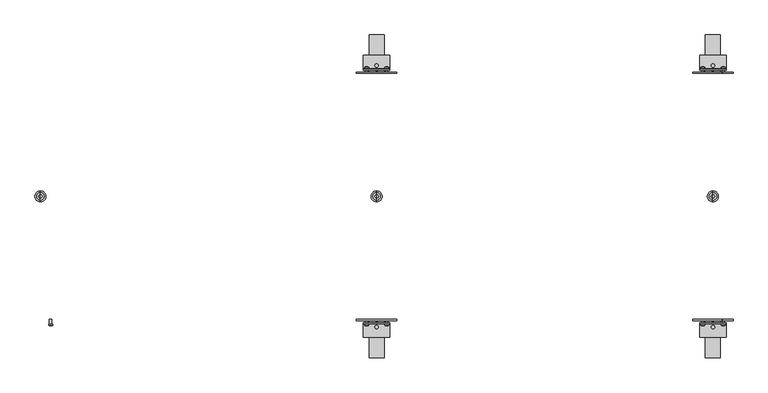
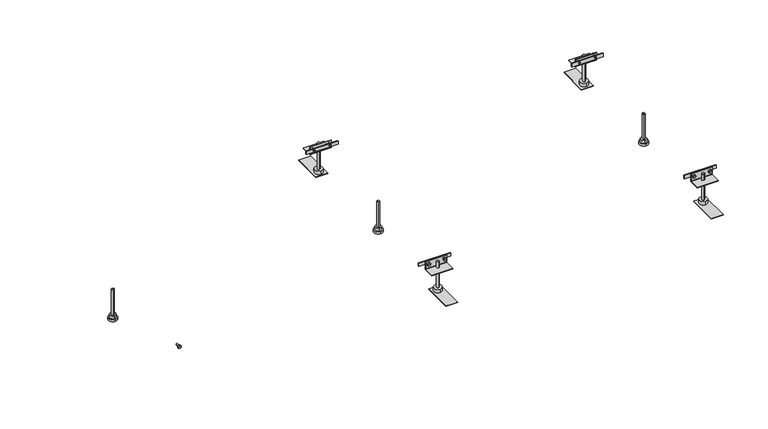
"""IFC4 building model written with IfcOpenShell, lengths in millimetres: proxy geometry."""

from ifc_helpers import new_model, si_unit, point, frame, frame_2d, origin, place, context, project, spatial, polyline, circle_curve, ellipse_curve, trimmed, segment, composite_curve, outline, extrude, source, transform, mapped, element, save
from ifc_brep_helpers import plane_surface, cylinder_surface, revolved_surface, advanced_brep


def electrical_fixtures_4a2096c9(model_context):
    return source(origin(), model_context, "Body", "SolidModel", [
        advanced_brep(
        [(1600.0, 13.0, -85.5), (1600.0, -13.0, -85.5), (1600.0, 0.0, -85.5), (1600.0, 13.0, -79.5), (1600.0, -13.0, -79.5), (1600.0, 9.0, -79.5), (1600.0, -9.0, -79.5), (1600.0, 9.0, -70.5), (1600.0, -9.0, -70.5), (1600.0, 3.954744, -70.5), (1600.0, -3.954744, -70.5), (1600.0, 3.954744, 9.5), (1600.0, -3.954744, 9.5), (1600.0, 0.0, 9.5)],
        [
            (0, 1, circle_curve(frame((1600.0, 0.0, -85.5), z_axis=(0.0, 0.0, -1.0), x_axis=(0.0, -1.0, 0.0)), 13.0)),
            (1, 2),
            (2, 0),
            (1, 0, circle_curve(frame((1600.0, 0.0, -85.5), z_axis=(0.0, 0.0, -1.0), x_axis=(0.0, -1.0, 0.0)), 13.0)),
            (3, 4, circle_curve(frame((1600.0, 0.0, -79.5), z_axis=(0.0, 0.0, -1.0), x_axis=(0.0, -1.0, 0.0)), 13.0)),
            (4, 1),
            (0, 3),
            (4, 3, circle_curve(frame((1600.0, 0.0, -79.5), z_axis=(0.0, 0.0, -1.0), x_axis=(0.0, -1.0, 0.0)), 13.0)),
            (5, 6, circle_curve(frame((1600.0, 0.0, -79.5), z_axis=(0.0, 0.0, -1.0), x_axis=(0.0, -1.0, 0.0)), 9.0)),
            (6, 4),
            (3, 5),
            (6, 5, circle_curve(frame((1600.0, 0.0, -79.5), z_axis=(0.0, 0.0, -1.0), x_axis=(0.0, -1.0, 0.0)), 9.0)),
            (7, 8, circle_curve(frame((1600.0, 0.0, -70.5), z_axis=(0.0, 0.0, -1.0), x_axis=(0.0, -1.0, 0.0)), 9.0)),
            (8, 6),
            (5, 7),
            (8, 7, circle_curve(frame((1600.0, 0.0, -70.5), z_axis=(0.0, 0.0, -1.0), x_axis=(0.0, -1.0, 0.0)), 9.0)),
            (9, 10, circle_curve(frame((1600.0, 0.0, -70.5), z_axis=(0.0, 0.0, -1.0), x_axis=(0.0, -1.0, 0.0)), 3.954744)),
            (10, 8),
            (7, 9),
            (10, 9, circle_curve(frame((1600.0, 0.0, -70.5), z_axis=(0.0, 0.0, -1.0), x_axis=(0.0, -1.0, 0.0)), 3.954744)),
            (11, 12, circle_curve(frame((1600.0, 0.0, 9.5), z_axis=(0.0, 0.0, -1.0), x_axis=(0.0, -1.0, 0.0)), 3.954744)),
            (12, 10),
            (9, 11),
            (12, 11, circle_curve(frame((1600.0, 0.0, 9.5), z_axis=(0.0, 0.0, -1.0), x_axis=(0.0, -1.0, 0.0)), 3.954744)),
            (13, 12),
            (11, 13),
        ],
        [
            plane_surface(frame((1600.0, 0.0, -85.5), z_axis=(0.0, 0.0, -1.0), x_axis=(0.0, -1.0, 0.0))),
            cylinder_surface(frame((1600.0, 0.0, 7.0), z_axis=(0.0, 0.0, 1.0), x_axis=(0.0, -1.0, 0.0)), 13.0),
            plane_surface(frame((1600.0, 0.0, -79.5), z_axis=(0.0, 0.0, 1.0), x_axis=(0.0, -1.0, 0.0))),
            cylinder_surface(frame((1600.0, 0.0, 7.0), z_axis=(0.0, 0.0, 1.0), x_axis=(0.0, -1.0, 0.0)), 9.0),
            plane_surface(frame((1600.0, 0.0, -70.5), z_axis=(0.0, 0.0, 1.0), x_axis=(0.0, -1.0, 0.0))),
            cylinder_surface(frame((1600.0, 0.0, 7.0), z_axis=(0.0, 0.0, 1.0), x_axis=(0.0, -1.0, 0.0)), 3.954744),
            plane_surface(frame((1600.0, 0.0, 9.5), z_axis=(0.0, 0.0, 1.0), x_axis=(0.0, -1.0, 0.0))),
        ],
        [
            (0, [[1, 2, 3]]),
            (0, [[4, -3, -2]]),
            (1, [[5, 6, -1, 7]]),
            (1, [[8, -7, -4, -6]]),
            (2, [[9, 10, -5, 11]]),
            (2, [[12, -11, -8, -10]]),
            (3, [[13, 14, -9, 15]]),
            (3, [[16, -15, -12, -14]]),
            (4, [[17, 18, -13, 19]]),
            (4, [[20, -19, -16, -18]]),
            (5, [[21, 22, -17, 23]]),
            (5, [[24, -23, -20, -22]]),
            (6, [[25, -21, 26]]),
            (6, [[-26, -24, -25]]),
        ],
    ),
        advanced_brep(
        [(1629.0575247, -306.6418922, 2.5), (1619.4769168, -306.6418922, 2.5), (1619.4769168, -304.7, 2.5), (1629.0575247, -304.7, 2.5), (1621.7042517, -304.7, 2.5), (1626.8301898, -304.7, 2.5), (1621.7042517, -292.7, 2.5), (1626.8301898, -292.7, 2.5), (1624.2672208, -292.7, 2.5), (1624.2672208, -308.3479209, 2.5)],
        [
            (0, 1, circle_curve(frame((1624.2672208, -306.6418922, 2.5), z_axis=(0.0, 1.0, 0.0), x_axis=(-1.0, 0.0, 0.0)), 4.790304)),
            (1, 2),
            (2, 3, circle_curve(frame((1624.2672208, -304.7, 2.5), z_axis=(0.0, -1.0, 0.0), x_axis=(-1.0, 0.0, 0.0)), 4.790304)),
            (3, 0),
            (1, 0, circle_curve(frame((1624.2672208, -306.6418922, 2.5), z_axis=(0.0, 1.0, 0.0), x_axis=(-1.0, 0.0, 0.0)), 4.790304)),
            (3, 2, circle_curve(frame((1624.2672208, -304.7, 2.5), z_axis=(0.0, -1.0, 0.0), x_axis=(-1.0, 0.0, 0.0)), 4.790304)),
            (2, 4),
            (4, 5, circle_curve(frame((1624.2672208, -304.7, 2.5), z_axis=(0.0, -1.0, 0.0), x_axis=(-1.0, 0.0, 0.0)), 2.562969)),
            (5, 3),
            (5, 4, circle_curve(frame((1624.2672208, -304.7, 2.5), z_axis=(0.0, -1.0, 0.0), x_axis=(-1.0, 0.0, 0.0)), 2.562969)),
            (4, 6),
            (6, 7, circle_curve(frame((1624.2672208, -292.7, 2.5), z_axis=(0.0, -1.0, 0.0), x_axis=(-1.0, 0.0, 0.0)), 2.562969)),
            (7, 5),
            (7, 6, circle_curve(frame((1624.2672208, -292.7, 2.5), z_axis=(0.0, -1.0, 0.0), x_axis=(-1.0, 0.0, 0.0)), 2.562969)),
            (6, 8),
            (8, 7),
            (9, 1, circle_curve(frame((1624.2353142, -300.8592246, 2.5), z_axis=(0.0, 0.0, -1.0), x_axis=(-1.0, 0.0, 0.0)), 7.4887643)),
            (0, 9, circle_curve(frame((1624.2991274, -300.8592246, 2.5), z_axis=(0.0, 0.0, -1.0), x_axis=(1.0, 0.0, 0.0)), 7.4887643)),
        ],
        [
            cylinder_surface(frame((1624.2672208, -304.2950786, 2.5), z_axis=(0.0, -1.0, 0.0), x_axis=(-1.0, 0.0, 0.0)), 4.790304),
            plane_surface(frame((1624.2672208, -304.7, 2.5), z_axis=(0.0, 1.0, 0.0), x_axis=(-1.0, 0.0, 0.0))),
            cylinder_surface(frame((1624.2672208, -304.2950786, 2.5), z_axis=(0.0, -1.0, 0.0), x_axis=(-1.0, 0.0, 0.0)), 2.562969),
            plane_surface(frame((1624.2672208, -292.7, 2.5), z_axis=(0.0, 1.0, 0.0), x_axis=(-1.0, 0.0, 0.0))),
            revolved_surface(trimmed(ellipse_curve(frame((1624.2353142, -300.8592246, 2.5), z_axis=(0.0, 0.0, 1.0), x_axis=(-1.0, 0.0, 0.0)), 7.4887643, 7.4887643), [point((1619.4769168, -306.6418922, 2.5))], [point((1624.2672208, -308.3479209, 2.5))], True, "CARTESIAN"), (1624.2672208, -304.2950786, 2.5), (0.0, -1.0, 0.0)),
        ],
        [
            (0, [[1, 2, 3, 4]]),
            (0, [[5, -4, 6, -2]]),
            (1, [[-3, 7, 8, 9]]),
            (1, [[-6, -9, 10, -7]]),
            (2, [[-8, 11, 12, 13]]),
            (2, [[-10, -13, 14, -11]]),
            (3, [[-12, 15, 16]]),
            (3, [[-14, -16, -15]]),
            (4, [[17, -1, 18]]),
            (4, [[-18, -5, -17]]),
        ],
    ),
        advanced_brep(
        [(1580.790304, -306.6418922, 2.5), (1571.209696, -306.6418922, 2.5), (1571.209696, -304.7, 2.5), (1580.790304, -304.7, 2.5), (1573.437031, -304.7, 2.5), (1578.562969, -304.7, 2.5), (1573.437031, -292.7, 2.5), (1578.562969, -292.7, 2.5), (1576.0, -292.7, 2.5), (1576.0, -308.3479209, 2.5)],
        [
            (0, 1, circle_curve(frame((1576.0, -306.6418922, 2.5), z_axis=(0.0, 1.0, 0.0), x_axis=(-1.0, 0.0, 0.0)), 4.790304)),
            (1, 2),
            (2, 3, circle_curve(frame((1576.0, -304.7, 2.5), z_axis=(0.0, -1.0, 0.0), x_axis=(-1.0, 0.0, 0.0)), 4.790304)),
            (3, 0),
            (1, 0, circle_curve(frame((1576.0, -306.6418922, 2.5), z_axis=(0.0, 1.0, 0.0), x_axis=(-1.0, 0.0, 0.0)), 4.790304)),
            (3, 2, circle_curve(frame((1576.0, -304.7, 2.5), z_axis=(0.0, -1.0, 0.0), x_axis=(-1.0, 0.0, 0.0)), 4.790304)),
            (2, 4),
            (4, 5, circle_curve(frame((1576.0, -304.7, 2.5), z_axis=(0.0, -1.0, 0.0), x_axis=(-1.0, 0.0, 0.0)), 2.562969)),
            (5, 3),
            (5, 4, circle_curve(frame((1576.0, -304.7, 2.5), z_axis=(0.0, -1.0, 0.0), x_axis=(-1.0, 0.0, 0.0)), 2.562969)),
            (4, 6),
            (6, 7, circle_curve(frame((1576.0, -292.7, 2.5), z_axis=(0.0, -1.0, 0.0), x_axis=(-1.0, 0.0, 0.0)), 2.562969)),
            (7, 5),
            (7, 6, circle_curve(frame((1576.0, -292.7, 2.5), z_axis=(0.0, -1.0, 0.0), x_axis=(-1.0, 0.0, 0.0)), 2.562969)),
            (6, 8),
            (8, 7),
            (9, 1, circle_curve(frame((1575.9680934, -300.8592246, 2.5), z_axis=(0.0, 0.0, -1.0), x_axis=(-1.0, 0.0, 0.0)), 7.4887643)),
            (0, 9, circle_curve(frame((1576.0319066, -300.8592246, 2.5), z_axis=(0.0, 0.0, -1.0), x_axis=(1.0, 0.0, 0.0)), 7.4887643)),
        ],
        [
            cylinder_surface(frame((1576.0, -304.2950786, 2.5), z_axis=(0.0, -1.0, 0.0), x_axis=(-1.0, 0.0, 0.0)), 4.790304),
            plane_surface(frame((1576.0, -304.7, 2.5), z_axis=(0.0, 1.0, 0.0), x_axis=(-1.0, 0.0, 0.0))),
            cylinder_surface(frame((1576.0, -304.2950786, 2.5), z_axis=(0.0, -1.0, 0.0), x_axis=(-1.0, 0.0, 0.0)), 2.562969),
            plane_surface(frame((1576.0, -292.7, 2.5), z_axis=(0.0, 1.0, 0.0), x_axis=(-1.0, 0.0, 0.0))),
            revolved_surface(trimmed(ellipse_curve(frame((1575.9680934, -300.8592246, 2.5), z_axis=(0.0, 0.0, 1.0), x_axis=(-1.0, 0.0, 0.0)), 7.4887643, 7.4887643), [point((1571.209696, -306.6418922, 2.5))], [point((1576.0, -308.3479209, 2.5))], True, "CARTESIAN"), (1576.0, -304.2950786, 2.5), (0.0, -1.0, 0.0)),
        ],
        [
            (0, [[1, 2, 3, 4]]),
            (0, [[5, -4, 6, -2]]),
            (1, [[-3, 7, 8, 9]]),
            (1, [[-6, -9, 10, -7]]),
            (2, [[-8, 11, 12, 13]]),
            (2, [[-10, -13, 14, -11]]),
            (3, [[-12, 15, 16]]),
            (3, [[-14, -16, -15]]),
            (4, [[17, -1, 18]]),
            (4, [[-18, -5, -17]]),
        ],
    ),
        advanced_brep(
        [(1629.0575247, 304.7, 2.5), (1619.4769168, 304.7, 2.5), (1619.4769168, 306.6418922, 2.5), (1629.0575247, 306.6418922, 2.5), (1626.8301898, 304.7, 2.5), (1621.7042517, 304.7, 2.5), (1626.8301898, 292.7, 2.5), (1621.7042517, 292.7, 2.5), (1624.2672208, 292.7, 2.5), (1624.2672208, 308.3479209, 2.5)],
        [
            (0, 1, circle_curve(frame((1624.2672208, 304.7, 2.5), z_axis=(0.0, 1.0, 0.0), x_axis=(-1.0, 0.0, 0.0)), 4.790304)),
            (1, 2),
            (2, 3, circle_curve(frame((1624.2672208, 306.6418922, 2.5), z_axis=(0.0, -1.0, 0.0), x_axis=(-1.0, 0.0, 0.0)), 4.790304)),
            (3, 0),
            (1, 0, circle_curve(frame((1624.2672208, 304.7, 2.5), z_axis=(0.0, 1.0, 0.0), x_axis=(-1.0, 0.0, 0.0)), 4.790304)),
            (3, 2, circle_curve(frame((1624.2672208, 306.6418922, 2.5), z_axis=(0.0, -1.0, 0.0), x_axis=(-1.0, 0.0, 0.0)), 4.790304)),
            (4, 5, circle_curve(frame((1624.2672208, 304.7, 2.5), z_axis=(0.0, 1.0, 0.0), x_axis=(-1.0, 0.0, 0.0)), 2.562969)),
            (5, 1),
            (0, 4),
            (5, 4, circle_curve(frame((1624.2672208, 304.7, 2.5), z_axis=(0.0, 1.0, 0.0), x_axis=(-1.0, 0.0, 0.0)), 2.562969)),
            (6, 7, circle_curve(frame((1624.2672208, 292.7, 2.5), z_axis=(0.0, 1.0, 0.0), x_axis=(-1.0, 0.0, 0.0)), 2.562969)),
            (7, 5),
            (4, 6),
            (7, 6, circle_curve(frame((1624.2672208, 292.7, 2.5), z_axis=(0.0, 1.0, 0.0), x_axis=(-1.0, 0.0, 0.0)), 2.562969)),
            (8, 7),
            (6, 8),
            (2, 9, circle_curve(frame((1624.2353142, 300.8592246, 2.5), z_axis=(0.0, 0.0, -1.0), x_axis=(-1.0, 0.0, 0.0)), 7.4887643)),
            (9, 3, circle_curve(frame((1624.2991274, 300.8592246, 2.5), z_axis=(0.0, 0.0, -1.0), x_axis=(1.0, 0.0, 0.0)), 7.4887643)),
        ],
        [
            cylinder_surface(frame((1624.2672208, 304.2950786, 2.5), z_axis=(0.0, -1.0, 0.0), x_axis=(-1.0, 0.0, 0.0)), 4.790304),
            plane_surface(frame((1624.2672208, 304.7, 2.5), z_axis=(0.0, -1.0, 0.0), x_axis=(-1.0, 0.0, 0.0))),
            cylinder_surface(frame((1624.2672208, 304.2950786, 2.5), z_axis=(0.0, -1.0, 0.0), x_axis=(-1.0, 0.0, 0.0)), 2.562969),
            plane_surface(frame((1624.2672208, 292.7, 2.5), z_axis=(0.0, -1.0, 0.0), x_axis=(-1.0, 0.0, 0.0))),
            revolved_surface(trimmed(ellipse_curve(frame((1624.2353142, 300.8592246, 2.5), z_axis=(0.0, 0.0, 1.0), x_axis=(-1.0, 0.0, 0.0)), 7.4887643, 7.4887643), [point((1624.2672208, 308.3479209, 2.5))], [point((1619.4769168, 306.6418922, 2.5))], True, "CARTESIAN"), (1624.2672208, 304.2950786, 2.5), (0.0, -1.0, 0.0)),
        ],
        [
            (0, [[1, 2, 3, 4]]),
            (0, [[5, -4, 6, -2]]),
            (1, [[7, 8, -1, 9]]),
            (1, [[10, -9, -5, -8]]),
            (2, [[11, 12, -7, 13]]),
            (2, [[14, -13, -10, -12]]),
            (3, [[15, -11, 16]]),
            (3, [[-16, -14, -15]]),
            (4, [[-3, 17, 18]]),
            (4, [[-6, -18, -17]]),
        ],
    ),
        advanced_brep(
        [(1580.790304, 304.7, 2.5), (1571.209696, 304.7, 2.5), (1571.209696, 306.6418922, 2.5), (1580.790304, 306.6418922, 2.5), (1578.562969, 304.7, 2.5), (1573.437031, 304.7, 2.5), (1578.562969, 292.7, 2.5), (1573.437031, 292.7, 2.5), (1576.0, 292.7, 2.5), (1576.0, 308.3479209, 2.5)],
        [
            (0, 1, circle_curve(frame((1576.0, 304.7, 2.5), z_axis=(0.0, 1.0, 0.0), x_axis=(-1.0, 0.0, 0.0)), 4.790304)),
            (1, 2),
            (2, 3, circle_curve(frame((1576.0, 306.6418922, 2.5), z_axis=(0.0, -1.0, 0.0), x_axis=(-1.0, 0.0, 0.0)), 4.790304)),
            (3, 0),
            (1, 0, circle_curve(frame((1576.0, 304.7, 2.5), z_axis=(0.0, 1.0, 0.0), x_axis=(-1.0, 0.0, 0.0)), 4.790304)),
            (3, 2, circle_curve(frame((1576.0, 306.6418922, 2.5), z_axis=(0.0, -1.0, 0.0), x_axis=(-1.0, 0.0, 0.0)), 4.790304)),
            (4, 5, circle_curve(frame((1576.0, 304.7, 2.5), z_axis=(0.0, 1.0, 0.0), x_axis=(-1.0, 0.0, 0.0)), 2.562969)),
            (5, 1),
            (0, 4),
            (5, 4, circle_curve(frame((1576.0, 304.7, 2.5), z_axis=(0.0, 1.0, 0.0), x_axis=(-1.0, 0.0, 0.0)), 2.562969)),
            (6, 7, circle_curve(frame((1576.0, 292.7, 2.5), z_axis=(0.0, 1.0, 0.0), x_axis=(-1.0, 0.0, 0.0)), 2.562969)),
            (7, 5),
            (4, 6),
            (7, 6, circle_curve(frame((1576.0, 292.7, 2.5), z_axis=(0.0, 1.0, 0.0), x_axis=(-1.0, 0.0, 0.0)), 2.562969)),
            (8, 7),
            (6, 8),
            (2, 9, circle_curve(frame((1575.9680934, 300.8592246, 2.5), z_axis=(0.0, 0.0, -1.0), x_axis=(-1.0, 0.0, 0.0)), 7.4887643)),
            (9, 3, circle_curve(frame((1576.0319066, 300.8592246, 2.5), z_axis=(0.0, 0.0, -1.0), x_axis=(1.0, 0.0, 0.0)), 7.4887643)),
        ],
        [
            cylinder_surface(frame((1576.0, 304.2950786, 2.5), z_axis=(0.0, -1.0, 0.0), x_axis=(-1.0, 0.0, 0.0)), 4.790304),
            plane_surface(frame((1576.0, 304.7, 2.5), z_axis=(0.0, -1.0, 0.0), x_axis=(-1.0, 0.0, 0.0))),
            cylinder_surface(frame((1576.0, 304.2950786, 2.5), z_axis=(0.0, -1.0, 0.0), x_axis=(-1.0, 0.0, 0.0)), 2.562969),
            plane_surface(frame((1576.0, 292.7, 2.5), z_axis=(0.0, -1.0, 0.0), x_axis=(-1.0, 0.0, 0.0))),
            revolved_surface(trimmed(ellipse_curve(frame((1575.9680934, 300.8592246, 2.5), z_axis=(0.0, 0.0, 1.0), x_axis=(-1.0, 0.0, 0.0)), 7.4887643, 7.4887643), [point((1576.0, 308.3479209, 2.5))], [point((1571.209696, 306.6418922, 2.5))], True, "CARTESIAN"), (1576.0, 304.2950786, 2.5), (0.0, -1.0, 0.0)),
        ],
        [
            (0, [[1, 2, 3, 4]]),
            (0, [[5, -4, 6, -2]]),
            (1, [[7, 8, -1, 9]]),
            (1, [[10, -9, -5, -8]]),
            (2, [[11, 12, -7, 13]]),
            (2, [[14, -13, -10, -12]]),
            (3, [[15, -11, 16]]),
            (3, [[-16, -14, -15]]),
            (4, [[-3, 17, 18]]),
            (4, [[-6, -18, -17]]),
        ],
    ),
        extrude(outline(polyline([(1552.0, 292.7), (1552.0, 295.7), (1648.0, 295.7), (1648.0, 292.7), (1552.0, 292.7)])), frame((0.0, 0.0, -2.5), z_axis=(0.0, 0.0, 1.0), x_axis=(1.0, 0.0, 0.0)), (0.0, 0.0, 1.0), 10.0),
        extrude(outline(polyline([(1552.0, -295.7), (1552.0, -292.7), (1648.0, -292.7), (1648.0, -295.7), (1552.0, -295.7)])), frame((0.0, 0.0, -2.5), z_axis=(0.0, 0.0, 1.0), x_axis=(1.0, 0.0, 0.0)), (0.0, 0.0, 1.0), 10.0),
        extrude(outline(composite_curve([segment(polyline([(300.6, 10.9), (302.6, 10.9), (302.6, -11.1088822)]), True, "CONTINUOUS"), segment(trimmed(circle_curve(frame_2d((303.5911178, -11.1088822)), 0.9911178), [point((302.6, -11.1088822))], [point((303.5911178, -12.1))], True, "CARTESIAN"), True, "CONTINUOUS"), segment(polyline([(303.5911178, -12.1), (335.6, -12.1), (335.6, -14.1), (303.6002521, -14.1)]), True, "CONTINUOUS"), segment(trimmed(circle_curve(frame_2d((303.6002521, -11.0997479)), 3.0002521), [point((303.6002521, -14.1))], [point((300.6, -11.0997479))], False, "CARTESIAN"), True, "CONTINUOUS"), segment(polyline([(300.6, -11.0997479), (300.6, 10.9)]), True, "CONTINUOUS")], self_intersect=False)), frame((1568.3, 0.0, 0.0), z_axis=(1.0, 0.0, 0.0), x_axis=(0.0, 1.0, 0.0)), (0.0, 0.0, 1.0), 63.4),
        extrude(outline(composite_curve([segment(polyline([(-300.6, 10.9), (-300.6, -11.0997479)]), True, "CONTINUOUS"), segment(trimmed(circle_curve(frame_2d((-303.6002521, -11.0997479)), 3.0002521), [point((-300.6, -11.0997479))], [point((-303.6002521, -14.1))], False, "CARTESIAN"), True, "CONTINUOUS"), segment(polyline([(-303.6002521, -14.1), (-335.6, -14.1), (-335.6, -12.1), (-303.5911178, -12.1)]), True, "CONTINUOUS"), segment(trimmed(circle_curve(frame_2d((-303.5911178, -11.1088822)), 0.9911178), [point((-303.5911178, -12.1))], [point((-302.6, -11.1088822))], True, "CARTESIAN"), True, "CONTINUOUS"), segment(polyline([(-302.6, -11.1088822), (-302.6, 10.9), (-300.6, 10.9)]), True, "CONTINUOUS")], self_intersect=False)), frame((1568.3, 0.0, 0.0), z_axis=(1.0, 0.0, 0.0), x_axis=(0.0, 1.0, 0.0)), (0.0, 0.0, 1.0), 63.4),
        extrude(outline(composite_curve([segment(trimmed(circle_curve(frame_2d((1600.0, 311.1712378)), 3.9923162), [point((1600.0, 315.163554))], [point((1600.0, 307.1789216))], False, "CARTESIAN"), True, "CONTINUOUS"), segment(trimmed(circle_curve(frame_2d((1600.0, 311.1712378)), 3.9923162), [point((1600.0, 307.1789216))], [point((1600.0, 315.163554))], False, "CARTESIAN"), True, "CONTINUOUS")], self_intersect=False)), frame((0.0, 0.0, -74.8), z_axis=(0.0, 0.0, 1.0), x_axis=(1.0, 0.0, 0.0)), (0.0, 0.0, 1.0), 81.8),
        extrude(outline(composite_curve([segment(trimmed(circle_curve(frame_2d((1600.0, -311.0787011)), 3.991847), [point((1600.0, -307.0868541))], [point((1600.0, -315.0705482))], False, "CARTESIAN"), True, "CONTINUOUS"), segment(trimmed(circle_curve(frame_2d((1600.0, -311.0787011)), 3.991847), [point((1600.0, -315.0705482))], [point((1600.0, -307.0868541))], False, "CARTESIAN"), True, "CONTINUOUS")], self_intersect=False)), frame((0.0, 0.0, -74.8), z_axis=(0.0, 0.0, 1.0), x_axis=(1.0, 0.0, 0.0)), (0.0, 0.0, 1.0), 81.8),
        extrude(outline(composite_curve([segment(trimmed(circle_curve(frame_2d((1600.0, 311.1652527)), 12.0), [point((1600.0, 323.1652527))], [point((1600.0, 299.1652527))], False, "CARTESIAN"), True, "CONTINUOUS"), segment(trimmed(circle_curve(frame_2d((1600.0, 311.1652527)), 12.0), [point((1600.0, 299.1652527))], [point((1600.0, 323.1652527))], False, "CARTESIAN"), True, "CONTINUOUS")], self_intersect=False)), frame((0.0, 0.0, -85.5), z_axis=(0.0, 0.0, 1.0), x_axis=(1.0, 0.0, 0.0)), (0.0, 0.0, 1.0), 10.7),
        extrude(outline(composite_curve([segment(trimmed(circle_curve(frame_2d((1600.0, -311.112037)), 12.0), [point((1600.0, -299.112037))], [point((1600.0, -323.112037))], False, "CARTESIAN"), True, "CONTINUOUS"), segment(trimmed(circle_curve(frame_2d((1600.0, -311.112037)), 12.0), [point((1600.0, -323.112037))], [point((1600.0, -299.112037))], False, "CARTESIAN"), True, "CONTINUOUS")], self_intersect=False)), frame((0.0, 0.0, -85.5), z_axis=(0.0, 0.0, 1.0), x_axis=(1.0, 0.0, 0.0)), (0.0, 0.0, 1.0), 10.7),
        extrude(outline(polyline([(1618.0, 294.1), (1582.0, 294.1), (1582.0, 384.1), (1618.0, 384.1), (1618.0, 294.1)])), frame((0.0, 0.0, -87.0), z_axis=(0.0, 0.0, 1.0), x_axis=(1.0, 0.0, 0.0)), (0.0, 0.0, 1.0), 1.5),
        extrude(outline(polyline([(1618.0, -384.1), (1582.0, -384.1), (1582.0, -294.1), (1618.0, -294.1), (1618.0, -384.1)])), frame((0.0, 0.0, -87.0), z_axis=(0.0, 0.0, 1.0), x_axis=(1.0, 0.0, 0.0)), (0.0, 0.0, 1.0), 1.5),
        advanced_brep(
        [(800.0, 13.0, -85.5), (800.0, -13.0, -85.5), (800.0, 0.0, -85.5), (800.0, 13.0, -79.5), (800.0, -13.0, -79.5), (800.0, 9.0, -79.5), (800.0, -9.0, -79.5), (800.0, 9.0, -70.5), (800.0, -9.0, -70.5), (800.0, 3.954744, -70.5), (800.0, -3.954744, -70.5), (800.0, 3.954744, 9.5), (800.0, -3.954744, 9.5), (800.0, 0.0, 9.5)],
        [
            (0, 1, circle_curve(frame((800.0, 0.0, -85.5), z_axis=(0.0, 0.0, -1.0), x_axis=(0.0, -1.0, 0.0)), 13.0)),
            (1, 2),
            (2, 0),
            (1, 0, circle_curve(frame((800.0, 0.0, -85.5), z_axis=(0.0, 0.0, -1.0), x_axis=(0.0, -1.0, 0.0)), 13.0)),
            (3, 4, circle_curve(frame((800.0, 0.0, -79.5), z_axis=(0.0, 0.0, -1.0), x_axis=(0.0, -1.0, 0.0)), 13.0)),
            (4, 1),
            (0, 3),
            (4, 3, circle_curve(frame((800.0, 0.0, -79.5), z_axis=(0.0, 0.0, -1.0), x_axis=(0.0, -1.0, 0.0)), 13.0)),
            (5, 6, circle_curve(frame((800.0, 0.0, -79.5), z_axis=(0.0, 0.0, -1.0), x_axis=(0.0, -1.0, 0.0)), 9.0)),
            (6, 4),
            (3, 5),
            (6, 5, circle_curve(frame((800.0, 0.0, -79.5), z_axis=(0.0, 0.0, -1.0), x_axis=(0.0, -1.0, 0.0)), 9.0)),
            (7, 8, circle_curve(frame((800.0, 0.0, -70.5), z_axis=(0.0, 0.0, -1.0), x_axis=(0.0, -1.0, 0.0)), 9.0)),
            (8, 6),
            (5, 7),
            (8, 7, circle_curve(frame((800.0, 0.0, -70.5), z_axis=(0.0, 0.0, -1.0), x_axis=(0.0, -1.0, 0.0)), 9.0)),
            (9, 10, circle_curve(frame((800.0, 0.0, -70.5), z_axis=(0.0, 0.0, -1.0), x_axis=(0.0, -1.0, 0.0)), 3.954744)),
            (10, 8),
            (7, 9),
            (10, 9, circle_curve(frame((800.0, 0.0, -70.5), z_axis=(0.0, 0.0, -1.0), x_axis=(0.0, -1.0, 0.0)), 3.954744)),
            (11, 12, circle_curve(frame((800.0, 0.0, 9.5), z_axis=(0.0, 0.0, -1.0), x_axis=(0.0, -1.0, 0.0)), 3.954744)),
            (12, 10),
            (9, 11),
            (12, 11, circle_curve(frame((800.0, 0.0, 9.5), z_axis=(0.0, 0.0, -1.0), x_axis=(0.0, -1.0, 0.0)), 3.954744)),
            (13, 12),
            (11, 13),
        ],
        [
            plane_surface(frame((800.0, 0.0, -85.5), z_axis=(0.0, 0.0, -1.0), x_axis=(0.0, -1.0, 0.0))),
            cylinder_surface(frame((800.0, 0.0, 7.0), z_axis=(0.0, 0.0, 1.0), x_axis=(0.0, -1.0, 0.0)), 13.0),
            plane_surface(frame((800.0, 0.0, -79.5), z_axis=(0.0, 0.0, 1.0), x_axis=(0.0, -1.0, 0.0))),
            cylinder_surface(frame((800.0, 0.0, 7.0), z_axis=(0.0, 0.0, 1.0), x_axis=(0.0, -1.0, 0.0)), 9.0),
            plane_surface(frame((800.0, 0.0, -70.5), z_axis=(0.0, 0.0, 1.0), x_axis=(0.0, -1.0, 0.0))),
            cylinder_surface(frame((800.0, 0.0, 7.0), z_axis=(0.0, 0.0, 1.0), x_axis=(0.0, -1.0, 0.0)), 3.954744),
            plane_surface(frame((800.0, 0.0, 9.5), z_axis=(0.0, 0.0, 1.0), x_axis=(0.0, -1.0, 0.0))),
        ],
        [
            (0, [[1, 2, 3]]),
            (0, [[4, -3, -2]]),
            (1, [[5, 6, -1, 7]]),
            (1, [[8, -7, -4, -6]]),
            (2, [[9, 10, -5, 11]]),
            (2, [[12, -11, -8, -10]]),
            (3, [[13, 14, -9, 15]]),
            (3, [[16, -15, -12, -14]]),
            (4, [[17, 18, -13, 19]]),
            (4, [[20, -19, -16, -18]]),
            (5, [[21, 22, -17, 23]]),
            (5, [[24, -23, -20, -22]]),
            (6, [[25, -21, 26]]),
            (6, [[-26, -24, -25]]),
        ],
    ),
        advanced_brep(
        [(829.0575247, -306.6418922, 2.5), (819.4769168, -306.6418922, 2.5), (819.4769168, -304.7, 2.5), (829.0575247, -304.7, 2.5), (821.7042517, -304.7, 2.5), (826.8301898, -304.7, 2.5), (821.7042517, -292.7, 2.5), (826.8301898, -292.7, 2.5), (824.2672208, -292.7, 2.5), (824.2672208, -308.3479209, 2.5)],
        [
            (0, 1, circle_curve(frame((824.2672208, -306.6418922, 2.5), z_axis=(0.0, 1.0, 0.0), x_axis=(-1.0, 0.0, 0.0)), 4.790304)),
            (1, 2),
            (2, 3, circle_curve(frame((824.2672208, -304.7, 2.5), z_axis=(0.0, -1.0, 0.0), x_axis=(-1.0, 0.0, 0.0)), 4.790304)),
            (3, 0),
            (1, 0, circle_curve(frame((824.2672208, -306.6418922, 2.5), z_axis=(0.0, 1.0, 0.0), x_axis=(-1.0, 0.0, 0.0)), 4.790304)),
            (3, 2, circle_curve(frame((824.2672208, -304.7, 2.5), z_axis=(0.0, -1.0, 0.0), x_axis=(-1.0, 0.0, 0.0)), 4.790304)),
            (2, 4),
            (4, 5, circle_curve(frame((824.2672208, -304.7, 2.5), z_axis=(0.0, -1.0, 0.0), x_axis=(-1.0, 0.0, 0.0)), 2.562969)),
            (5, 3),
            (5, 4, circle_curve(frame((824.2672208, -304.7, 2.5), z_axis=(0.0, -1.0, 0.0), x_axis=(-1.0, 0.0, 0.0)), 2.562969)),
            (4, 6),
            (6, 7, circle_curve(frame((824.2672208, -292.7, 2.5), z_axis=(0.0, -1.0, 0.0), x_axis=(-1.0, 0.0, 0.0)), 2.562969)),
            (7, 5),
            (7, 6, circle_curve(frame((824.2672208, -292.7, 2.5), z_axis=(0.0, -1.0, 0.0), x_axis=(-1.0, 0.0, 0.0)), 2.562969)),
            (6, 8),
            (8, 7),
            (9, 1, circle_curve(frame((824.2353142, -300.8592246, 2.5), z_axis=(0.0, 0.0, -1.0), x_axis=(-1.0, 0.0, 0.0)), 7.4887643)),
            (0, 9, circle_curve(frame((824.2991274, -300.8592246, 2.5), z_axis=(0.0, 0.0, -1.0), x_axis=(1.0, 0.0, 0.0)), 7.4887643)),
        ],
        [
            cylinder_surface(frame((824.2672208, -304.2950786, 2.5), z_axis=(0.0, -1.0, 0.0), x_axis=(-1.0, 0.0, 0.0)), 4.790304),
            plane_surface(frame((824.2672208, -304.7, 2.5), z_axis=(0.0, 1.0, 0.0), x_axis=(-1.0, 0.0, 0.0))),
            cylinder_surface(frame((824.2672208, -304.2950786, 2.5), z_axis=(0.0, -1.0, 0.0), x_axis=(-1.0, 0.0, 0.0)), 2.562969),
            plane_surface(frame((824.2672208, -292.7, 2.5), z_axis=(0.0, 1.0, 0.0), x_axis=(-1.0, 0.0, 0.0))),
            revolved_surface(trimmed(ellipse_curve(frame((824.2353142, -300.8592246, 2.5), z_axis=(0.0, 0.0, 1.0), x_axis=(-1.0, 0.0, 0.0)), 7.4887643, 7.4887643), [point((819.4769168, -306.6418922, 2.5))], [point((824.2672208, -308.3479209, 2.5))], True, "CARTESIAN"), (824.2672208, -304.2950786, 2.5), (0.0, -1.0, 0.0)),
        ],
        [
            (0, [[1, 2, 3, 4]]),
            (0, [[5, -4, 6, -2]]),
            (1, [[-3, 7, 8, 9]]),
            (1, [[-6, -9, 10, -7]]),
            (2, [[-8, 11, 12, 13]]),
            (2, [[-10, -13, 14, -11]]),
            (3, [[-12, 15, 16]]),
            (3, [[-14, -16, -15]]),
            (4, [[17, -1, 18]]),
            (4, [[-18, -5, -17]]),
        ],
    ),
        advanced_brep(
        [(780.790304, -306.6418922, 2.5), (771.209696, -306.6418922, 2.5), (771.209696, -304.7, 2.5), (780.790304, -304.7, 2.5), (773.437031, -304.7, 2.5), (778.562969, -304.7, 2.5), (773.437031, -292.7, 2.5), (778.562969, -292.7, 2.5), (776.0, -292.7, 2.5), (776.0, -308.3479209, 2.5)],
        [
            (0, 1, circle_curve(frame((776.0, -306.6418922, 2.5), z_axis=(0.0, 1.0, 0.0), x_axis=(-1.0, 0.0, 0.0)), 4.790304)),
            (1, 2),
            (2, 3, circle_curve(frame((776.0, -304.7, 2.5), z_axis=(0.0, -1.0, 0.0), x_axis=(-1.0, 0.0, 0.0)), 4.790304)),
            (3, 0),
            (1, 0, circle_curve(frame((776.0, -306.6418922, 2.5), z_axis=(0.0, 1.0, 0.0), x_axis=(-1.0, 0.0, 0.0)), 4.790304)),
            (3, 2, circle_curve(frame((776.0, -304.7, 2.5), z_axis=(0.0, -1.0, 0.0), x_axis=(-1.0, 0.0, 0.0)), 4.790304)),
            (2, 4),
            (4, 5, circle_curve(frame((776.0, -304.7, 2.5), z_axis=(0.0, -1.0, 0.0), x_axis=(-1.0, 0.0, 0.0)), 2.562969)),
            (5, 3),
            (5, 4, circle_curve(frame((776.0, -304.7, 2.5), z_axis=(0.0, -1.0, 0.0), x_axis=(-1.0, 0.0, 0.0)), 2.562969)),
            (4, 6),
            (6, 7, circle_curve(frame((776.0, -292.7, 2.5), z_axis=(0.0, -1.0, 0.0), x_axis=(-1.0, 0.0, 0.0)), 2.562969)),
            (7, 5),
            (7, 6, circle_curve(frame((776.0, -292.7, 2.5), z_axis=(0.0, -1.0, 0.0), x_axis=(-1.0, 0.0, 0.0)), 2.562969)),
            (6, 8),
            (8, 7),
            (9, 1, circle_curve(frame((775.9680934, -300.8592246, 2.5), z_axis=(0.0, 0.0, -1.0), x_axis=(-1.0, 0.0, 0.0)), 7.4887643)),
            (0, 9, circle_curve(frame((776.0319066, -300.8592246, 2.5), z_axis=(0.0, 0.0, -1.0), x_axis=(1.0, 0.0, 0.0)), 7.4887643)),
        ],
        [
            cylinder_surface(frame((776.0, -304.2950786, 2.5), z_axis=(0.0, -1.0, 0.0), x_axis=(-1.0, 0.0, 0.0)), 4.790304),
            plane_surface(frame((776.0, -304.7, 2.5), z_axis=(0.0, 1.0, 0.0), x_axis=(-1.0, 0.0, 0.0))),
            cylinder_surface(frame((776.0, -304.2950786, 2.5), z_axis=(0.0, -1.0, 0.0), x_axis=(-1.0, 0.0, 0.0)), 2.562969),
            plane_surface(frame((776.0, -292.7, 2.5), z_axis=(0.0, 1.0, 0.0), x_axis=(-1.0, 0.0, 0.0))),
            revolved_surface(trimmed(ellipse_curve(frame((775.9680934, -300.8592246, 2.5), z_axis=(0.0, 0.0, 1.0), x_axis=(-1.0, 0.0, 0.0)), 7.4887643, 7.4887643), [point((771.209696, -306.6418922, 2.5))], [point((776.0, -308.3479209, 2.5))], True, "CARTESIAN"), (776.0, -304.2950786, 2.5), (0.0, -1.0, 0.0)),
        ],
        [
            (0, [[1, 2, 3, 4]]),
            (0, [[5, -4, 6, -2]]),
            (1, [[-3, 7, 8, 9]]),
            (1, [[-6, -9, 10, -7]]),
            (2, [[-8, 11, 12, 13]]),
            (2, [[-10, -13, 14, -11]]),
            (3, [[-12, 15, 16]]),
            (3, [[-14, -16, -15]]),
            (4, [[17, -1, 18]]),
            (4, [[-18, -5, -17]]),
        ],
    ),
        advanced_brep(
        [(829.0575247, 304.7, 2.5), (819.4769168, 304.7, 2.5), (819.4769168, 306.6418922, 2.5), (829.0575247, 306.6418922, 2.5), (826.8301898, 304.7, 2.5), (821.7042517, 304.7, 2.5), (826.8301898, 292.7, 2.5), (821.7042517, 292.7, 2.5), (824.2672208, 292.7, 2.5), (824.2672208, 308.3479209, 2.5)],
        [
            (0, 1, circle_curve(frame((824.2672208, 304.7, 2.5), z_axis=(0.0, 1.0, 0.0), x_axis=(-1.0, 0.0, 0.0)), 4.790304)),
            (1, 2),
            (2, 3, circle_curve(frame((824.2672208, 306.6418922, 2.5), z_axis=(0.0, -1.0, 0.0), x_axis=(-1.0, 0.0, 0.0)), 4.790304)),
            (3, 0),
            (1, 0, circle_curve(frame((824.2672208, 304.7, 2.5), z_axis=(0.0, 1.0, 0.0), x_axis=(-1.0, 0.0, 0.0)), 4.790304)),
            (3, 2, circle_curve(frame((824.2672208, 306.6418922, 2.5), z_axis=(0.0, -1.0, 0.0), x_axis=(-1.0, 0.0, 0.0)), 4.790304)),
            (4, 5, circle_curve(frame((824.2672208, 304.7, 2.5), z_axis=(0.0, 1.0, 0.0), x_axis=(-1.0, 0.0, 0.0)), 2.562969)),
            (5, 1),
            (0, 4),
            (5, 4, circle_curve(frame((824.2672208, 304.7, 2.5), z_axis=(0.0, 1.0, 0.0), x_axis=(-1.0, 0.0, 0.0)), 2.562969)),
            (6, 7, circle_curve(frame((824.2672208, 292.7, 2.5), z_axis=(0.0, 1.0, 0.0), x_axis=(-1.0, 0.0, 0.0)), 2.562969)),
            (7, 5),
            (4, 6),
            (7, 6, circle_curve(frame((824.2672208, 292.7, 2.5), z_axis=(0.0, 1.0, 0.0), x_axis=(-1.0, 0.0, 0.0)), 2.562969)),
            (8, 7),
            (6, 8),
            (2, 9, circle_curve(frame((824.2353142, 300.8592246, 2.5), z_axis=(0.0, 0.0, -1.0), x_axis=(-1.0, 0.0, 0.0)), 7.4887643)),
            (9, 3, circle_curve(frame((824.2991274, 300.8592246, 2.5), z_axis=(0.0, 0.0, -1.0), x_axis=(1.0, 0.0, 0.0)), 7.4887643)),
        ],
        [
            cylinder_surface(frame((824.2672208, 304.2950786, 2.5), z_axis=(0.0, -1.0, 0.0), x_axis=(-1.0, 0.0, 0.0)), 4.790304),
            plane_surface(frame((824.2672208, 304.7, 2.5), z_axis=(0.0, -1.0, 0.0), x_axis=(-1.0, 0.0, 0.0))),
            cylinder_surface(frame((824.2672208, 304.2950786, 2.5), z_axis=(0.0, -1.0, 0.0), x_axis=(-1.0, 0.0, 0.0)), 2.562969),
            plane_surface(frame((824.2672208, 292.7, 2.5), z_axis=(0.0, -1.0, 0.0), x_axis=(-1.0, 0.0, 0.0))),
            revolved_surface(trimmed(ellipse_curve(frame((824.2353142, 300.8592246, 2.5), z_axis=(0.0, 0.0, 1.0), x_axis=(-1.0, 0.0, 0.0)), 7.4887643, 7.4887643), [point((824.2672208, 308.3479209, 2.5))], [point((819.4769168, 306.6418922, 2.5))], True, "CARTESIAN"), (824.2672208, 304.2950786, 2.5), (0.0, -1.0, 0.0)),
        ],
        [
            (0, [[1, 2, 3, 4]]),
            (0, [[5, -4, 6, -2]]),
            (1, [[7, 8, -1, 9]]),
            (1, [[10, -9, -5, -8]]),
            (2, [[11, 12, -7, 13]]),
            (2, [[14, -13, -10, -12]]),
            (3, [[15, -11, 16]]),
            (3, [[-16, -14, -15]]),
            (4, [[-3, 17, 18]]),
            (4, [[-6, -18, -17]]),
        ],
    ),
        advanced_brep(
        [(780.790304, 304.7, 2.5), (771.209696, 304.7, 2.5), (771.209696, 306.6418922, 2.5), (780.790304, 306.6418922, 2.5), (778.562969, 304.7, 2.5), (773.437031, 304.7, 2.5), (778.562969, 292.7, 2.5), (773.437031, 292.7, 2.5), (776.0, 292.7, 2.5), (776.0, 308.3479209, 2.5)],
        [
            (0, 1, circle_curve(frame((776.0, 304.7, 2.5), z_axis=(0.0, 1.0, 0.0), x_axis=(-1.0, 0.0, 0.0)), 4.790304)),
            (1, 2),
            (2, 3, circle_curve(frame((776.0, 306.6418922, 2.5), z_axis=(0.0, -1.0, 0.0), x_axis=(-1.0, 0.0, 0.0)), 4.790304)),
            (3, 0),
            (1, 0, circle_curve(frame((776.0, 304.7, 2.5), z_axis=(0.0, 1.0, 0.0), x_axis=(-1.0, 0.0, 0.0)), 4.790304)),
            (3, 2, circle_curve(frame((776.0, 306.6418922, 2.5), z_axis=(0.0, -1.0, 0.0), x_axis=(-1.0, 0.0, 0.0)), 4.790304)),
            (4, 5, circle_curve(frame((776.0, 304.7, 2.5), z_axis=(0.0, 1.0, 0.0), x_axis=(-1.0, 0.0, 0.0)), 2.562969)),
            (5, 1),
            (0, 4),
            (5, 4, circle_curve(frame((776.0, 304.7, 2.5), z_axis=(0.0, 1.0, 0.0), x_axis=(-1.0, 0.0, 0.0)), 2.562969)),
            (6, 7, circle_curve(frame((776.0, 292.7, 2.5), z_axis=(0.0, 1.0, 0.0), x_axis=(-1.0, 0.0, 0.0)), 2.562969)),
            (7, 5),
            (4, 6),
            (7, 6, circle_curve(frame((776.0, 292.7, 2.5), z_axis=(0.0, 1.0, 0.0), x_axis=(-1.0, 0.0, 0.0)), 2.562969)),
            (8, 7),
            (6, 8),
            (2, 9, circle_curve(frame((775.9680934, 300.8592246, 2.5), z_axis=(0.0, 0.0, -1.0), x_axis=(-1.0, 0.0, 0.0)), 7.4887643)),
            (9, 3, circle_curve(frame((776.0319066, 300.8592246, 2.5), z_axis=(0.0, 0.0, -1.0), x_axis=(1.0, 0.0, 0.0)), 7.4887643)),
        ],
        [
            cylinder_surface(frame((776.0, 304.2950786, 2.5), z_axis=(0.0, -1.0, 0.0), x_axis=(-1.0, 0.0, 0.0)), 4.790304),
            plane_surface(frame((776.0, 304.7, 2.5), z_axis=(0.0, -1.0, 0.0), x_axis=(-1.0, 0.0, 0.0))),
            cylinder_surface(frame((776.0, 304.2950786, 2.5), z_axis=(0.0, -1.0, 0.0), x_axis=(-1.0, 0.0, 0.0)), 2.562969),
            plane_surface(frame((776.0, 292.7, 2.5), z_axis=(0.0, -1.0, 0.0), x_axis=(-1.0, 0.0, 0.0))),
            revolved_surface(trimmed(ellipse_curve(frame((775.9680934, 300.8592246, 2.5), z_axis=(0.0, 0.0, 1.0), x_axis=(-1.0, 0.0, 0.0)), 7.4887643, 7.4887643), [point((776.0, 308.3479209, 2.5))], [point((771.209696, 306.6418922, 2.5))], True, "CARTESIAN"), (776.0, 304.2950786, 2.5), (0.0, -1.0, 0.0)),
        ],
        [
            (0, [[1, 2, 3, 4]]),
            (0, [[5, -4, 6, -2]]),
            (1, [[7, 8, -1, 9]]),
            (1, [[10, -9, -5, -8]]),
            (2, [[11, 12, -7, 13]]),
            (2, [[14, -13, -10, -12]]),
            (3, [[15, -11, 16]]),
            (3, [[-16, -14, -15]]),
            (4, [[-3, 17, 18]]),
            (4, [[-6, -18, -17]]),
        ],
    ),
        extrude(outline(polyline([(752.0, 292.7), (752.0, 295.7), (848.0, 295.7), (848.0, 292.7), (752.0, 292.7)])), frame((0.0, 0.0, -2.5), z_axis=(0.0, 0.0, 1.0), x_axis=(1.0, 0.0, 0.0)), (0.0, 0.0, 1.0), 10.0),
        extrude(outline(polyline([(752.0, -295.7), (752.0, -292.7), (848.0, -292.7), (848.0, -295.7), (752.0, -295.7)])), frame((0.0, 0.0, -2.5), z_axis=(0.0, 0.0, 1.0), x_axis=(1.0, 0.0, 0.0)), (0.0, 0.0, 1.0), 10.0),
        extrude(outline(composite_curve([segment(polyline([(300.6, 10.9), (302.6, 10.9), (302.6, -11.1088822)]), True, "CONTINUOUS"), segment(trimmed(circle_curve(frame_2d((303.5911178, -11.1088822)), 0.9911178), [point((302.6, -11.1088822))], [point((303.5911178, -12.1))], True, "CARTESIAN"), True, "CONTINUOUS"), segment(polyline([(303.5911178, -12.1), (335.6, -12.1), (335.6, -14.1), (303.6002521, -14.1)]), True, "CONTINUOUS"), segment(trimmed(circle_curve(frame_2d((303.6002521, -11.0997479)), 3.0002521), [point((303.6002521, -14.1))], [point((300.6, -11.0997479))], False, "CARTESIAN"), True, "CONTINUOUS"), segment(polyline([(300.6, -11.0997479), (300.6, 10.9)]), True, "CONTINUOUS")], self_intersect=False)), frame((768.3, 0.0, 0.0), z_axis=(1.0, 0.0, 0.0), x_axis=(0.0, 1.0, 0.0)), (0.0, 0.0, 1.0), 63.4),
        extrude(outline(composite_curve([segment(polyline([(-300.6, 10.9), (-300.6, -11.0997479)]), True, "CONTINUOUS"), segment(trimmed(circle_curve(frame_2d((-303.6002521, -11.0997479)), 3.0002521), [point((-300.6, -11.0997479))], [point((-303.6002521, -14.1))], False, "CARTESIAN"), True, "CONTINUOUS"), segment(polyline([(-303.6002521, -14.1), (-335.6, -14.1), (-335.6, -12.1), (-303.5911178, -12.1)]), True, "CONTINUOUS"), segment(trimmed(circle_curve(frame_2d((-303.5911178, -11.1088822)), 0.9911178), [point((-303.5911178, -12.1))], [point((-302.6, -11.1088822))], True, "CARTESIAN"), True, "CONTINUOUS"), segment(polyline([(-302.6, -11.1088822), (-302.6, 10.9), (-300.6, 10.9)]), True, "CONTINUOUS")], self_intersect=False)), frame((768.3, 0.0, 0.0), z_axis=(1.0, 0.0, 0.0), x_axis=(0.0, 1.0, 0.0)), (0.0, 0.0, 1.0), 63.4),
        extrude(outline(composite_curve([segment(trimmed(circle_curve(frame_2d((800.0, 311.1712378)), 3.9923162), [point((800.0, 315.163554))], [point((800.0, 307.1789216))], False, "CARTESIAN"), True, "CONTINUOUS"), segment(trimmed(circle_curve(frame_2d((800.0, 311.1712378)), 3.9923162), [point((800.0, 307.1789216))], [point((800.0, 315.163554))], False, "CARTESIAN"), True, "CONTINUOUS")], self_intersect=False)), frame((0.0, 0.0, -74.8), z_axis=(0.0, 0.0, 1.0), x_axis=(1.0, 0.0, 0.0)), (0.0, 0.0, 1.0), 81.8),
        extrude(outline(composite_curve([segment(trimmed(circle_curve(frame_2d((800.0, -311.0787011)), 3.991847), [point((800.0, -307.0868541))], [point((800.0, -315.0705482))], False, "CARTESIAN"), True, "CONTINUOUS"), segment(trimmed(circle_curve(frame_2d((800.0, -311.0787011)), 3.991847), [point((800.0, -315.0705482))], [point((800.0, -307.0868541))], False, "CARTESIAN"), True, "CONTINUOUS")], self_intersect=False)), frame((0.0, 0.0, -74.8), z_axis=(0.0, 0.0, 1.0), x_axis=(1.0, 0.0, 0.0)), (0.0, 0.0, 1.0), 81.8),
        extrude(outline(composite_curve([segment(trimmed(circle_curve(frame_2d((800.0, 311.1652527)), 12.0), [point((800.0, 323.1652527))], [point((800.0, 299.1652527))], False, "CARTESIAN"), True, "CONTINUOUS"), segment(trimmed(circle_curve(frame_2d((800.0, 311.1652527)), 12.0), [point((800.0, 299.1652527))], [point((800.0, 323.1652527))], False, "CARTESIAN"), True, "CONTINUOUS")], self_intersect=False)), frame((0.0, 0.0, -85.5), z_axis=(0.0, 0.0, 1.0), x_axis=(1.0, 0.0, 0.0)), (0.0, 0.0, 1.0), 10.7),
        extrude(outline(composite_curve([segment(trimmed(circle_curve(frame_2d((800.0, -311.112037)), 12.0), [point((800.0, -299.112037))], [point((800.0, -323.112037))], False, "CARTESIAN"), True, "CONTINUOUS"), segment(trimmed(circle_curve(frame_2d((800.0, -311.112037)), 12.0), [point((800.0, -323.112037))], [point((800.0, -299.112037))], False, "CARTESIAN"), True, "CONTINUOUS")], self_intersect=False)), frame((0.0, 0.0, -85.5), z_axis=(0.0, 0.0, 1.0), x_axis=(1.0, 0.0, 0.0)), (0.0, 0.0, 1.0), 10.7),
        extrude(outline(polyline([(818.0, 294.1), (782.0, 294.1), (782.0, 384.1), (818.0, 384.1), (818.0, 294.1)])), frame((0.0, 0.0, -87.0), z_axis=(0.0, 0.0, 1.0), x_axis=(1.0, 0.0, 0.0)), (0.0, 0.0, 1.0), 1.5),
        extrude(outline(polyline([(818.0, -384.1), (782.0, -384.1), (782.0, -294.1), (818.0, -294.1), (818.0, -384.1)])), frame((0.0, 0.0, -87.0), z_axis=(0.0, 0.0, 1.0), x_axis=(1.0, 0.0, 0.0)), (0.0, 0.0, 1.0), 1.5),
        advanced_brep(
        [(0.0, 13.0, -85.5), (0.0, -13.0, -85.5), (0.0, 0.0, -85.5), (0.0, 13.0, -79.5), (0.0, -13.0, -79.5), (0.0, 9.0, -79.5), (0.0, -9.0, -79.5), (0.0, 9.0, -70.5), (0.0, -9.0, -70.5), (0.0, 3.954744, -70.5), (0.0, -3.954744, -70.5), (0.0, 3.954744, 9.5), (0.0, -3.954744, 9.5), (0.0, 0.0, 9.5)],
        [
            (0, 1, circle_curve(frame((0.0, 0.0, -85.5), z_axis=(0.0, 0.0, -1.0), x_axis=(0.0, -1.0, 0.0)), 13.0)),
            (1, 2),
            (2, 0),
            (1, 0, circle_curve(frame((0.0, 0.0, -85.5), z_axis=(0.0, 0.0, -1.0), x_axis=(0.0, -1.0, 0.0)), 13.0)),
            (3, 4, circle_curve(frame((0.0, 0.0, -79.5), z_axis=(0.0, 0.0, -1.0), x_axis=(0.0, -1.0, 0.0)), 13.0)),
            (4, 1),
            (0, 3),
            (4, 3, circle_curve(frame((0.0, 0.0, -79.5), z_axis=(0.0, 0.0, -1.0), x_axis=(0.0, -1.0, 0.0)), 13.0)),
            (5, 6, circle_curve(frame((0.0, 0.0, -79.5), z_axis=(0.0, 0.0, -1.0), x_axis=(0.0, -1.0, 0.0)), 9.0)),
            (6, 4),
            (3, 5),
            (6, 5, circle_curve(frame((0.0, 0.0, -79.5), z_axis=(0.0, 0.0, -1.0), x_axis=(0.0, -1.0, 0.0)), 9.0)),
            (7, 8, circle_curve(frame((0.0, 0.0, -70.5), z_axis=(0.0, 0.0, -1.0), x_axis=(0.0, -1.0, 0.0)), 9.0)),
            (8, 6),
            (5, 7),
            (8, 7, circle_curve(frame((0.0, 0.0, -70.5), z_axis=(0.0, 0.0, -1.0), x_axis=(0.0, -1.0, 0.0)), 9.0)),
            (9, 10, circle_curve(frame((0.0, 0.0, -70.5), z_axis=(0.0, 0.0, -1.0), x_axis=(0.0, -1.0, 0.0)), 3.954744)),
            (10, 8),
            (7, 9),
            (10, 9, circle_curve(frame((0.0, 0.0, -70.5), z_axis=(0.0, 0.0, -1.0), x_axis=(0.0, -1.0, 0.0)), 3.954744)),
            (11, 12, circle_curve(frame((0.0, 0.0, 9.5), z_axis=(0.0, 0.0, -1.0), x_axis=(0.0, -1.0, 0.0)), 3.954744)),
            (12, 10),
            (9, 11),
            (12, 11, circle_curve(frame((0.0, 0.0, 9.5), z_axis=(0.0, 0.0, -1.0), x_axis=(0.0, -1.0, 0.0)), 3.954744)),
            (13, 12),
            (11, 13),
        ],
        [
            plane_surface(frame((0.0, 0.0, -85.5), z_axis=(0.0, 0.0, -1.0), x_axis=(0.0, -1.0, 0.0))),
            cylinder_surface(frame((0.0, 0.0, 7.0), z_axis=(0.0, 0.0, 1.0), x_axis=(0.0, -1.0, 0.0)), 13.0),
            plane_surface(frame((0.0, 0.0, -79.5), z_axis=(0.0, 0.0, 1.0), x_axis=(0.0, -1.0, 0.0))),
            cylinder_surface(frame((0.0, 0.0, 7.0), z_axis=(0.0, 0.0, 1.0), x_axis=(0.0, -1.0, 0.0)), 9.0),
            plane_surface(frame((0.0, 0.0, -70.5), z_axis=(0.0, 0.0, 1.0), x_axis=(0.0, -1.0, 0.0))),
            cylinder_surface(frame((0.0, 0.0, 7.0), z_axis=(0.0, 0.0, 1.0), x_axis=(0.0, -1.0, 0.0)), 3.954744),
            plane_surface(frame((0.0, 0.0, 9.5), z_axis=(0.0, 0.0, 1.0), x_axis=(0.0, -1.0, 0.0))),
        ],
        [
            (0, [[1, 2, 3]]),
            (0, [[4, -3, -2]]),
            (1, [[5, 6, -1, 7]]),
            (1, [[8, -7, -4, -6]]),
            (2, [[9, 10, -5, 11]]),
            (2, [[12, -11, -8, -10]]),
            (3, [[13, 14, -9, 15]]),
            (3, [[16, -15, -12, -14]]),
            (4, [[17, 18, -13, 19]]),
            (4, [[20, -19, -16, -18]]),
            (5, [[21, 22, -17, 23]]),
            (5, [[24, -23, -20, -22]]),
            (6, [[25, -21, 26]]),
            (6, [[-26, -24, -25]]),
        ],
    ),
        advanced_brep(
        [(29.0575247, -306.6418922, 2.5), (19.4769168, -306.6418922, 2.5), (19.4769168, -304.7, 2.5), (29.0575247, -304.7, 2.5), (21.7042517, -304.7, 2.5), (26.8301898, -304.7, 2.5), (21.7042517, -292.7, 2.5), (26.8301898, -292.7, 2.5), (24.2672208, -292.7, 2.5), (24.2672208, -308.3479209, 2.5)],
        [
            (0, 1, circle_curve(frame((24.2672208, -306.6418922, 2.5), z_axis=(0.0, 1.0, 0.0), x_axis=(-1.0, 0.0, 0.0)), 4.790304)),
            (1, 2),
            (2, 3, circle_curve(frame((24.2672208, -304.7, 2.5), z_axis=(0.0, -1.0, 0.0), x_axis=(-1.0, 0.0, 0.0)), 4.790304)),
            (3, 0),
            (1, 0, circle_curve(frame((24.2672208, -306.6418922, 2.5), z_axis=(0.0, 1.0, 0.0), x_axis=(-1.0, 0.0, 0.0)), 4.790304)),
            (3, 2, circle_curve(frame((24.2672208, -304.7, 2.5), z_axis=(0.0, -1.0, 0.0), x_axis=(-1.0, 0.0, 0.0)), 4.790304)),
            (2, 4),
            (4, 5, circle_curve(frame((24.2672208, -304.7, 2.5), z_axis=(0.0, -1.0, 0.0), x_axis=(-1.0, 0.0, 0.0)), 2.562969)),
            (5, 3),
            (5, 4, circle_curve(frame((24.2672208, -304.7, 2.5), z_axis=(0.0, -1.0, 0.0), x_axis=(-1.0, 0.0, 0.0)), 2.562969)),
            (4, 6),
            (6, 7, circle_curve(frame((24.2672208, -292.7, 2.5), z_axis=(0.0, -1.0, 0.0), x_axis=(-1.0, 0.0, 0.0)), 2.562969)),
            (7, 5),
            (7, 6, circle_curve(frame((24.2672208, -292.7, 2.5), z_axis=(0.0, -1.0, 0.0), x_axis=(-1.0, 0.0, 0.0)), 2.562969)),
            (6, 8),
            (8, 7),
            (9, 1, circle_curve(frame((24.2353142, -300.8592246, 2.5), z_axis=(0.0, 0.0, -1.0), x_axis=(-1.0, 0.0, 0.0)), 7.4887643)),
            (0, 9, circle_curve(frame((24.2991274, -300.8592246, 2.5), z_axis=(0.0, 0.0, -1.0), x_axis=(1.0, 0.0, 0.0)), 7.4887643)),
        ],
        [
            cylinder_surface(frame((24.2672208, -304.2950786, 2.5), z_axis=(0.0, -1.0, 0.0), x_axis=(-1.0, 0.0, 0.0)), 4.790304),
            plane_surface(frame((24.2672208, -304.7, 2.5), z_axis=(0.0, 1.0, 0.0), x_axis=(-1.0, 0.0, 0.0))),
            cylinder_surface(frame((24.2672208, -304.2950786, 2.5), z_axis=(0.0, -1.0, 0.0), x_axis=(-1.0, 0.0, 0.0)), 2.562969),
            plane_surface(frame((24.2672208, -292.7, 2.5), z_axis=(0.0, 1.0, 0.0), x_axis=(-1.0, 0.0, 0.0))),
            revolved_surface(trimmed(ellipse_curve(frame((24.2353142, -300.8592246, 2.5), z_axis=(0.0, 0.0, 1.0), x_axis=(-1.0, 0.0, 0.0)), 7.4887643, 7.4887643), [point((19.4769168, -306.6418922, 2.5))], [point((24.2672208, -308.3479209, 2.5))], True, "CARTESIAN"), (24.2672208, -304.2950786, 2.5), (0.0, -1.0, 0.0)),
        ],
        [
            (0, [[1, 2, 3, 4]]),
            (0, [[5, -4, 6, -2]]),
            (1, [[-3, 7, 8, 9]]),
            (1, [[-6, -9, 10, -7]]),
            (2, [[-8, 11, 12, 13]]),
            (2, [[-10, -13, 14, -11]]),
            (3, [[-12, 15, 16]]),
            (3, [[-14, -16, -15]]),
            (4, [[17, -1, 18]]),
            (4, [[-18, -5, -17]]),
        ],
    ),
    ])


if __name__ == "__main__":
    model = new_model("IFC4")
    model_context = context("Model", 3, world=origin())
    ifc_project = project(units=[si_unit("LENGTHUNIT", "METRE", prefix="MILLI")], contexts=[model_context])
    site = spatial("IfcSite", under=ifc_project)
    building = spatial("IfcBuilding", under=site)
    placement = place(None, origin())
    electrical_fixtures_shape = electrical_fixtures_4a2096c9(model_context)
    element("IfcBuildingElementProxy", 1, Name="Electrical Fixtures", at=placement, inside=building, context=model_context, shape_type="MappedRepresentation", body=[
        mapped(electrical_fixtures_shape, transform((0.0, 0.0, 0.0), x_axis=(1.0, 0.0, 0.0), y_axis=(0.0, 1.0, 0.0), z_axis=(0.0, 0.0, 1.0))),
    ])
    save(model, "model.ifc")
